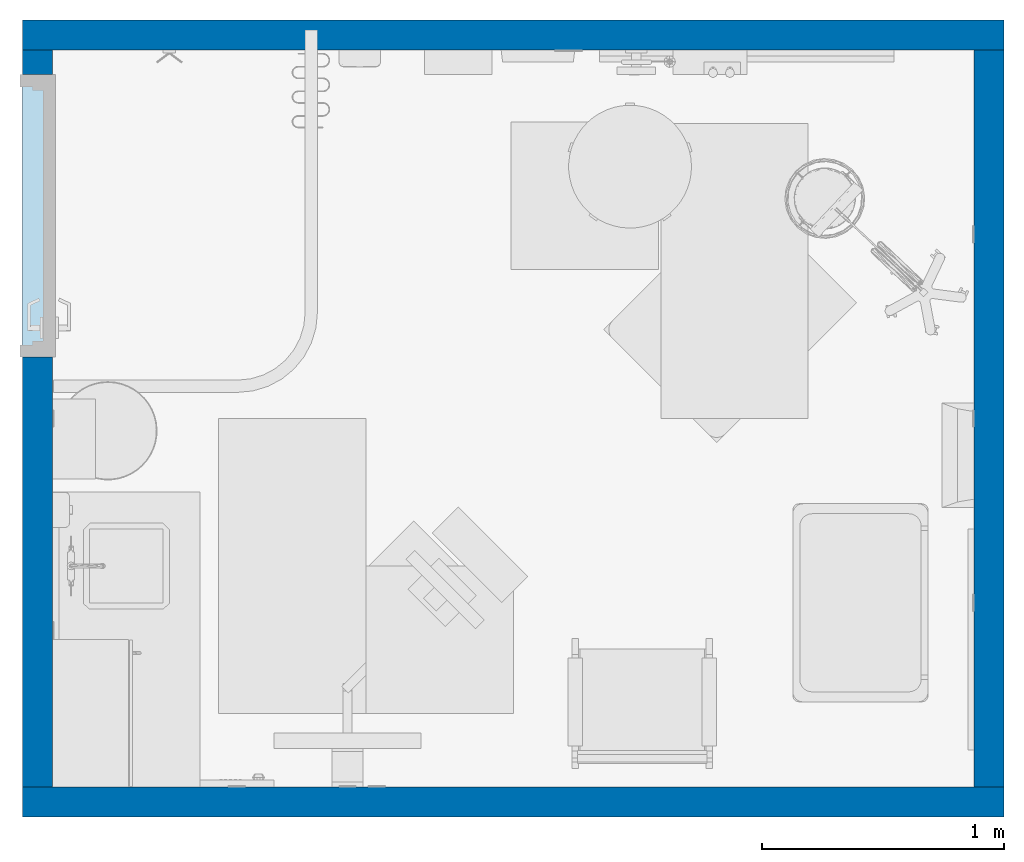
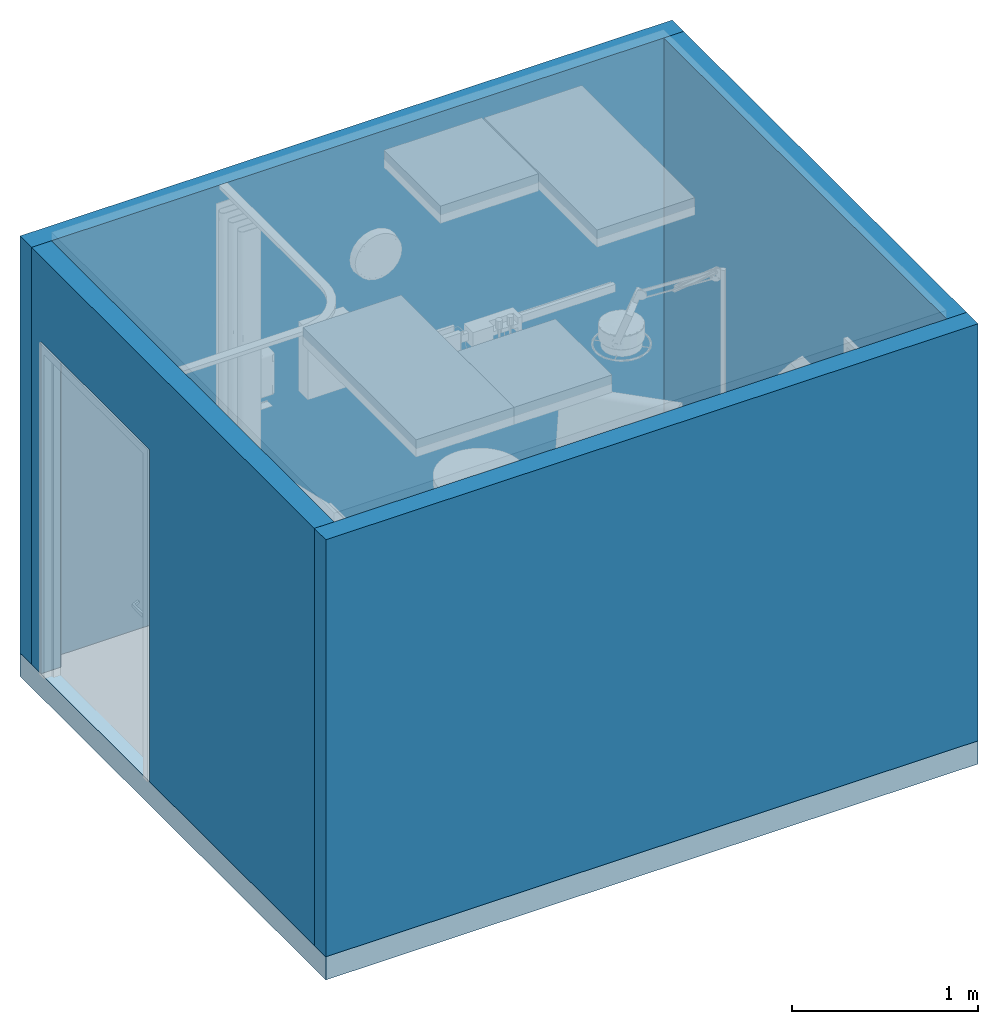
# One storey, part 1 of 9: 4 walls, 1 slab, 1 opening.
"""IFC2X3 building model written with IfcOpenShell, lengths in feet."""

from ifc_helpers import new_model, entity, si_unit, converted_unit, derived_unit, direction, frame, frame_2d, origin, place, context, subcontext, project, spatial, rectangle, extrude, material, layer, layer_set, layer_usage, type_object, element, save


model = new_model("IFC2X3")

# Units and contexts
model_context = context("Model", 3, precision=0.0001, world=origin(), true_north=direction((6.12303176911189e-17, 1.0)))
body_context = subcontext(model_context, "Body", "Model", "MODEL_VIEW")
ifc_project = project(units=[converted_unit("LENGTHUNIT", "FOOT", entity("IfcRatioMeasure", 0.3048), si_unit("LENGTHUNIT", "METRE"), dimensions=[1, 0, 0, 0, 0, 0, 0]), converted_unit("AREAUNIT", "SQUARE FOOT", entity("IfcRatioMeasure", 0.09290304), si_unit("AREAUNIT", "SQUARE_METRE"), dimensions=[2, 0, 0, 0, 0, 0, 0]), converted_unit("VOLUMEUNIT", "CUBIC FOOT", entity("IfcRatioMeasure", 0.028316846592), si_unit("VOLUMEUNIT", "CUBIC_METRE"), dimensions=[3, 0, 0, 0, 0, 0, 0]), converted_unit("PLANEANGLEUNIT", "DEGREE", entity("IfcRatioMeasure", 0.0174532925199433), si_unit("PLANEANGLEUNIT", "RADIAN"), dimensions=[0, 0, 0, 0, 0, 0, 0]), si_unit("MASSUNIT", "GRAM", prefix="KILO"), derived_unit("MASSDENSITYUNIT", [(si_unit("MASSUNIT", "GRAM", prefix="KILO"), 1), (si_unit("LENGTHUNIT", "METRE"), -3)]), si_unit("TIMEUNIT", "SECOND"), si_unit("FREQUENCYUNIT", "HERTZ"), si_unit("THERMODYNAMICTEMPERATUREUNIT", "DEGREE_CELSIUS"), derived_unit("THERMALTRANSMITTANCEUNIT", [(si_unit("MASSUNIT", "GRAM", prefix="KILO"), 1), (si_unit("THERMODYNAMICTEMPERATUREUNIT", "KELVIN"), -1), (si_unit("TIMEUNIT", "SECOND"), -3)]), derived_unit("VOLUMETRICFLOWRATEUNIT", [(si_unit("LENGTHUNIT", "METRE"), 3), (si_unit("TIMEUNIT", "SECOND"), -1)]), si_unit("ELECTRICCURRENTUNIT", "AMPERE"), si_unit("ELECTRICVOLTAGEUNIT", "VOLT"), si_unit("POWERUNIT", "WATT"), si_unit("FORCEUNIT", "NEWTON"), si_unit("ILLUMINANCEUNIT", "LUX"), si_unit("LUMINOUSFLUXUNIT", "LUMEN"), si_unit("LUMINOUSINTENSITYUNIT", "CANDELA"), derived_unit("USERDEFINED", [(si_unit("MASSUNIT", "GRAM", prefix="KILO"), -1), (si_unit("LENGTHUNIT", "METRE"), -2), (si_unit("TIMEUNIT", "SECOND"), 3), (si_unit("LUMINOUSFLUXUNIT", "LUMEN"), 1)]), derived_unit("LINEARVELOCITYUNIT", [(si_unit("LENGTHUNIT", "METRE"), 1), (si_unit("TIMEUNIT", "SECOND"), -1)]), si_unit("PRESSUREUNIT", "PASCAL"), derived_unit("USERDEFINED", [(si_unit("LENGTHUNIT", "METRE"), -2), (si_unit("MASSUNIT", "GRAM", prefix="KILO"), 1), (si_unit("TIMEUNIT", "SECOND"), -2)])], contexts=[model_context])

# Site, building, storey
site_placement = place(None, origin())
site = spatial("IfcSite", under=ifc_project, at=site_placement, Name="Default", CompositionType="ELEMENT")
building_placement = place(site_placement, origin())
building = spatial("IfcBuilding", under=site, at=building_placement, Name="OUTPATIENT / PACT CLINIC (Ch. 265)", CompositionType="ELEMENT")
storey_placement = place(building_placement, origin())
storey = spatial("IfcBuildingStorey", under=building, at=storey_placement, Name="DATUM", CompositionType="ELEMENT", Elevation=0.0)

# Slab
ifc_material = material(Name="<Unnamed>")
ifc_layer_1 = layer(ifc_material, 0.5)
ifc_layer_set_1 = layer_set([ifc_layer_1], Name="Floor:Generic - 6\"")
ifc_layer_usage_1 = layer_usage(ifc_layer_set_1, "AXIS3", "POSITIVE", 0.0)
slab_placement = place(storey_placement, origin())
element("IfcSlab", 1, at=slab_placement, inside=storey, material=ifc_layer_usage_1, Name="Floor:Generic - 6\"", ObjectType="Floor:Generic - 6\"", PredefinedType="FLOOR", context=body_context, shape_type="SweptSolid", body=[
    extrude(rectangle(XDim=10.8125000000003, YDim=13.3125, at=frame_2d((-5.6843418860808e-14, 1.4210854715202e-14), x_axis=(1.0, 0.0))), frame((215.961487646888, -857.823304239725, 0.0), z_axis=(0.0, 0.0, -1.0), x_axis=(0.0, 1.0, 0.0)), (0.0, 0.0, 1.0), 0.5),
])

# Walls
ifc_layer_2 = layer(ifc_material, 0.40625)
ifc_layer_set_2 = layer_set([ifc_layer_2], Name="Basic Wall:Interior - 4 7/8\"")
ifc_layer_usage_2 = layer_usage(ifc_layer_set_2, "AXIS2", "NEGATIVE", 0.203125)
wall_type = type_object("IfcWallType", Name="Basic Wall:Interior - 4 7/8\"", PredefinedType="STANDARD", material=ifc_layer_set_2)
wall_1_placement = place(storey_placement, frame((209.305237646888, -852.620179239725, 0.0)))
element("IfcWallStandardCase", 2, at=wall_1_placement, inside=storey, type_object=wall_type, material=ifc_layer_usage_2, Name="Basic Wall:Interior - 4 7/8\"", ObjectType="Basic Wall:Interior - 4 7/8\"", context=body_context, shape_type="SweptSolid", body=[
    extrude(rectangle(XDim=13.3125, YDim=0.40625, at=frame_2d((6.65625000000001, 2.15244488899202e-14), x_axis=(-1.0, 0.0))), origin(), (0.0, 0.0, 1.0), 9.0),
])
ifc_layer_usage_3 = layer_usage(ifc_layer_set_2, "AXIS2", "POSITIVE", -0.203125)
wall_2_placement = place(storey_placement, frame((209.305237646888, -863.026429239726, 0.0)))
element("IfcWallStandardCase", 3, at=wall_2_placement, inside=storey, type_object=wall_type, material=ifc_layer_usage_3, Name="Basic Wall:Interior - 4 7/8\"", ObjectType="Basic Wall:Interior - 4 7/8\"", context=body_context, shape_type="SweptSolid", body=[
    extrude(rectangle(XDim=13.3125, YDim=0.40625, at=frame_2d((6.65625000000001, 2.13995487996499e-14), x_axis=(-1.0, 0.0))), origin(), (0.0, 0.0, 1.0), 9.0),
])
ifc_layer_usage_4 = layer_usage(ifc_layer_set_2, "AXIS2", "NEGATIVE", 0.203125)
wall_3_placement = place(storey_placement, frame((222.414612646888, -852.823304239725, 0.0), z_axis=(0.0, 0.0, 1.0), x_axis=(0.0, -1.0, 0.0)))
element("IfcWallStandardCase", 4, at=wall_3_placement, inside=storey, type_object=wall_type, material=ifc_layer_usage_4, Name="Basic Wall:Interior - 4 7/8\"", ObjectType="Basic Wall:Interior - 4 7/8\"", context=body_context, shape_type="SweptSolid", body=[
    extrude(rectangle(XDim=10.0000000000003, YDim=0.40625, at=frame_2d((5.00000000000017, 7.82707232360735e-15), x_axis=(-1.0, 0.0))), origin(), (0.0, 0.0, 1.0), 9.0),
])

# Wall, opening
ifc_layer_usage_5 = layer_usage(ifc_layer_set_2, "AXIS2", "POSITIVE", -0.203125)
wall_4_placement = place(storey_placement, frame((209.508362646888, -852.823304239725, 0.0), z_axis=(0.0, 0.0, 1.0), x_axis=(0.0, -1.0, 0.0)))
wall_4 = element("IfcWallStandardCase", 5, at=wall_4_placement, inside=storey, type_object=wall_type, material=ifc_layer_usage_5, Name="Basic Wall:Interior - 4 7/8\"", ObjectType="Basic Wall:Interior - 4 7/8\"", context=body_context, shape_type="SweptSolid", body=[
    extrude(rectangle(XDim=10.0000000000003, YDim=0.40625, at=frame_2d((5.00000000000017, 7.82707232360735e-15), x_axis=(-1.0, 0.0))), origin(), (0.0, 0.0, 1.0), 9.0),
])
opening_placement = place(wall_4_placement, frame((0.333333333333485, -0.203125, 0.0)))
element("IfcOpeningElement", 6, at=opening_placement, cuts=wall_4, Name="Single - Flush:42\" x 84\":1", ObjectType="Opening", context=body_context, shape_type="SweptSolid", body=[
    extrude(rectangle(XDim=3.83333333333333, YDim=7.16666666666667, at=frame_2d((3.58333333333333, 1.91666666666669), x_axis=(0.0, -1.0))), frame((0.0, 0.0, 0.0), z_axis=(0.0, 1.0, 0.0), x_axis=(0.0, 0.0, 1.0)), (0.0, 0.0, 1.0), 0.40625),
])

save(model, "model.ifc")
